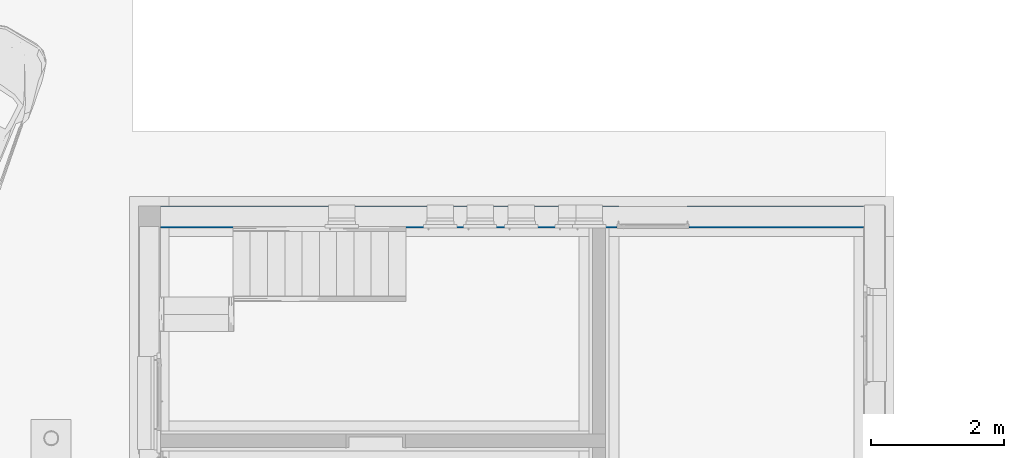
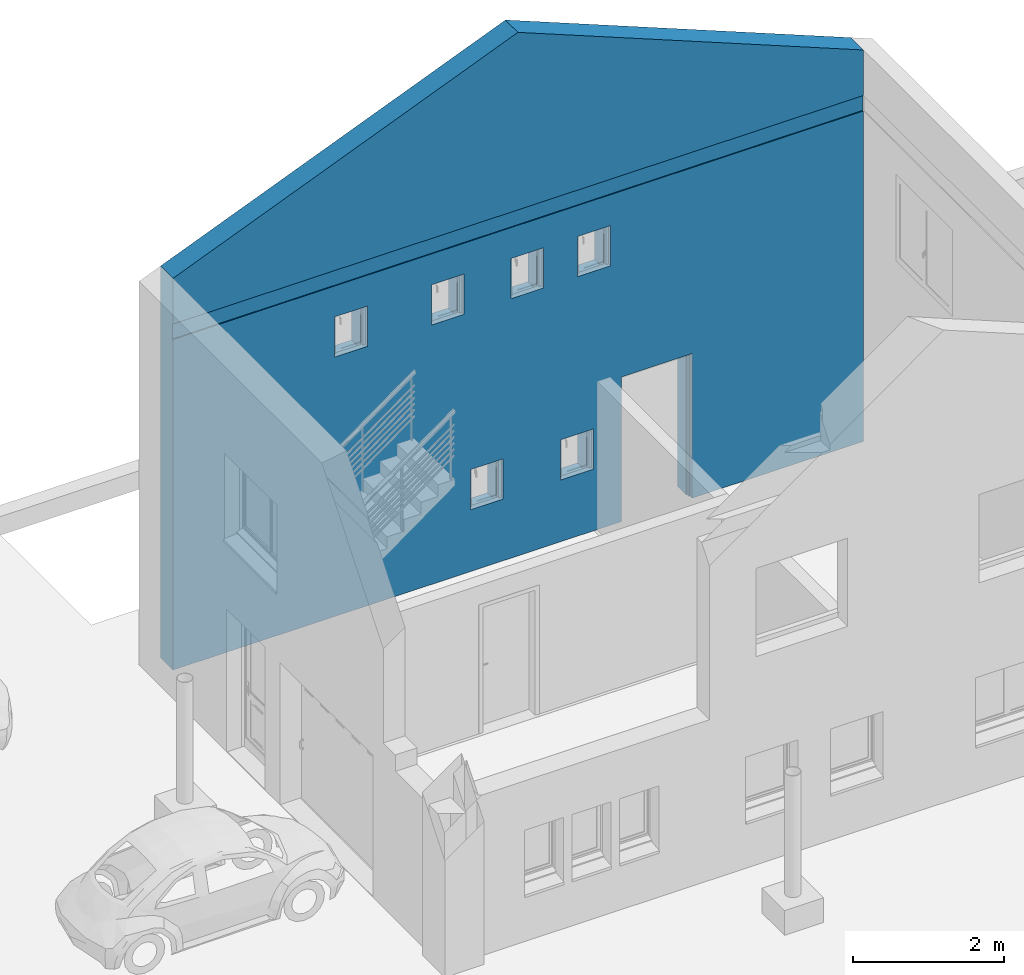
# One storey, part 8 of 20: 1 wall, 7 openings.
"""IFC2X3 building model written with IfcOpenShell, lengths in metres."""

from ifc_helpers import new_model, entity, si_unit, converted_unit, derived_unit, direction, frame, frame_2d, origin, place, context, subcontext, project, spatial, polyline, rectangle, extrude, clip, bounded_halfspace, faceted_brep, material, layer, layer_set, layer_usage, type_object, element, save


model = new_model("IFC2X3")

# Units and contexts
model_context = context("Model", 3, precision=1e-05, world=origin(), true_north=direction((6.12303176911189e-17, 1.0)))
body_context = subcontext(model_context, "Body", "Model", "MODEL_VIEW")
ifc_project = project(units=[si_unit("LENGTHUNIT", "METRE"), si_unit("AREAUNIT", "SQUARE_METRE"), si_unit("VOLUMEUNIT", "CUBIC_METRE"), converted_unit("PLANEANGLEUNIT", "DEGREE", entity("IfcRatioMeasure", 0.0174532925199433), si_unit("PLANEANGLEUNIT", "RADIAN"), dimensions=[0, 0, 0, 0, 0, 0, 0]), si_unit("MASSUNIT", "GRAM", prefix="KILO"), derived_unit("MASSDENSITYUNIT", [(si_unit("MASSUNIT", "GRAM", prefix="KILO"), 1), (si_unit("LENGTHUNIT", "METRE"), -3)]), derived_unit("MOMENTOFINERTIAUNIT", [(si_unit("LENGTHUNIT", "METRE"), 4)]), si_unit("TIMEUNIT", "SECOND"), si_unit("FREQUENCYUNIT", "HERTZ"), si_unit("THERMODYNAMICTEMPERATUREUNIT", "DEGREE_CELSIUS"), derived_unit("THERMALTRANSMITTANCEUNIT", [(si_unit("MASSUNIT", "GRAM", prefix="KILO"), 1), (si_unit("THERMODYNAMICTEMPERATUREUNIT", "KELVIN"), -1), (si_unit("TIMEUNIT", "SECOND"), -3)]), derived_unit("VOLUMETRICFLOWRATEUNIT", [(si_unit("LENGTHUNIT", "METRE"), 3), (si_unit("TIMEUNIT", "SECOND"), -1)]), si_unit("ELECTRICCURRENTUNIT", "AMPERE"), si_unit("ELECTRICVOLTAGEUNIT", "VOLT"), si_unit("POWERUNIT", "WATT"), si_unit("FORCEUNIT", "NEWTON", prefix="KILO"), si_unit("ILLUMINANCEUNIT", "LUX"), si_unit("LUMINOUSFLUXUNIT", "LUMEN"), si_unit("LUMINOUSINTENSITYUNIT", "CANDELA"), derived_unit("USERDEFINED", [(si_unit("MASSUNIT", "GRAM", prefix="KILO"), -1), (si_unit("LENGTHUNIT", "METRE"), -2), (si_unit("TIMEUNIT", "SECOND"), 3), (si_unit("LUMINOUSFLUXUNIT", "LUMEN"), 1)]), derived_unit("LINEARVELOCITYUNIT", [(si_unit("LENGTHUNIT", "METRE"), 1), (si_unit("TIMEUNIT", "SECOND"), -1)]), si_unit("PRESSUREUNIT", "PASCAL"), derived_unit("USERDEFINED", [(si_unit("LENGTHUNIT", "METRE"), -2), (si_unit("MASSUNIT", "GRAM", prefix="KILO"), 1), (si_unit("TIMEUNIT", "SECOND"), -2)]), derived_unit("LINEARFORCEUNIT", [(si_unit("MASSUNIT", "GRAM", prefix="KILO"), 1), (si_unit("LENGTHUNIT", "METRE"), 1), (si_unit("TIMEUNIT", "SECOND"), -2), (si_unit("LENGTHUNIT", "METRE"), -1)]), derived_unit("PLANARFORCEUNIT", [(si_unit("MASSUNIT", "GRAM", prefix="KILO"), 1), (si_unit("LENGTHUNIT", "METRE"), 1), (si_unit("TIMEUNIT", "SECOND"), -2), (si_unit("LENGTHUNIT", "METRE"), -2)])], contexts=[model_context])

# Site, building, storey
site_placement = place(None, origin())
site = spatial("IfcSite", under=ifc_project, at=site_placement, Name="Surface", CompositionType="ELEMENT")
building_placement = place(site_placement, origin())
building = spatial("IfcBuilding", under=site, at=building_placement, CompositionType="ELEMENT")
storey_placement = place(building_placement, origin())
storey = spatial("IfcBuildingStorey", under=building, at=storey_placement, Name="Niveau rdc", CompositionType="ELEMENT", Elevation=-1.94916083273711e-14)

# Wall, openings
ifc_material_1 = material(Name="Maçonnerie - Isolant")
ifc_layer_1 = layer(ifc_material_1, 0.015)
ifc_material_2 = material(Name="Blocs briques monomur")
ifc_layer_2 = layer(ifc_material_2, 0.3)
ifc_layer_3 = layer(ifc_material_1, 0.015)
ifc_layer_set = layer_set([ifc_layer_1, ifc_layer_2, ifc_layer_3], Name="Mur de base:bloc monomur30")
ifc_layer_usage = layer_usage(ifc_layer_set, "AXIS2", "NEGATIVE", 0.165)
wall_type = type_object("IfcWallType", Name="Mur de base:bloc monomur30", PredefinedType="STANDARD", material=ifc_layer_set)
wall_placement = place(storey_placement, frame((1.88439607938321, 7.17425810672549, 0.0)))
wall = element("IfcWallStandardCase", 1, at=wall_placement, inside=storey, type_object=wall_type, material=ifc_layer_usage, Name="Mur de base:bloc monomur30", ObjectType="Mur de base:bloc monomur30", context=body_context, shape_type="Clipping", body=[
    clip(clip(clip(extrude(rectangle(XDim=10.57, YDim=0.330000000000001, at=frame_2d((5.285, -9.71445146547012e-17), x_axis=(-1.0, 0.0))), origin(), (0.0, 0.0, 1.0), 8.47372052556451), bounded_halfspace(frame((10.57, -0.165, 6.33642179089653), z_axis=(0.374606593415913, 0.0, 0.927183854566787), x_axis=(0.0, 1.0, 0.0)), False, frame((10.57, -0.165, 6.33642179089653)), polyline([(0.0, 0.0), (0.0, 0.33), (-5.28999999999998, 0.330000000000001), (-5.28999999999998, 0.0), (-4.80500000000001, 0.0), (-4.735, 0.0), (0.0, 0.0)]))), bounded_halfspace(frame((0.0, 0.165, 6.34046205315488), z_axis=(-0.374606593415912, 0.0, 0.927183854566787), x_axis=(0.0, -1.0, 0.0)), False, frame((0.0, 0.165, 6.34046205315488)), polyline([(0.0, 0.0), (0.0, -0.33), (5.28000000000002, -0.33), (5.28000000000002, 0.0), (0.0, 0.0)]))), bounded_halfspace(frame((0.0, -0.150000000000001, 5.35000000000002), z_axis=(0.0, 1.0, 0.0), x_axis=(0.0, 0.0, 1.0)), True, frame((0.0, -0.150000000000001, 5.35000000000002), z_axis=(0.0, 1.0, 0.0), x_axis=(0.0, 0.0, 1.0)), polyline([(0.0, 0.0), (0.25, 0.0), (0.25, 10.57), (0.0, 10.57), (0.0, 0.0)]))),
])
opening_1_placement = place(wall_placement, frame((6.86500000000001, -0.464999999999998, 0.0)))
element("IfcOpeningElement", 2, at=opening_1_placement, cuts=wall, Name="Mur de base:bloc monomur30", ObjectType="Opening", context=body_context, shape_type="Brep", body=[
    faceted_brep([(1.05, 0.0, 2.30999999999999), (1.05, 0.3, 2.30999999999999), (0.0300000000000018, 0.3, 2.30999999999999), (0.0300000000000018, 0.0, 2.30999999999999), (1.05, 0.930000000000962, 0.0), (1.05, 0.400000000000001, 0.0), (1.065, 0.400000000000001, 0.0), (1.065, 0.357000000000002, 0.0), (1.08, 0.357000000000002, 0.0), (1.08, 0.3, 0.0), (1.05, 0.3, 0.0), (1.05, 0.0, 0.0), (0.0300000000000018, 0.0, 0.0), (0.0300000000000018, 0.3, 0.0), (0.0, 0.3, 0.0), (0.0, 0.357000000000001, 0.0), (0.015000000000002, 0.357000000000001, 0.0), (0.015000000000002, 0.400000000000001, 0.0), (0.0300000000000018, 0.400000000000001, 0.0), (0.0300000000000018, 0.930000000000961, 0.0), (1.05, 0.930000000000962, 2.30999999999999), (1.05, 0.400000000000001, 2.30999999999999), (0.0300000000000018, 0.930000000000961, 2.30999999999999), (1.065, 0.357000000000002, 2.32499999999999), (0.0150000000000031, 0.357000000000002, 2.32499999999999), (0.0, 0.357000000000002, 2.33999999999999), (1.08, 0.357000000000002, 2.33999999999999), (1.08, 0.3, 2.33999999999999), (0.0, 0.3, 2.33999999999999), (0.0150000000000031, 0.400000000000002, 2.32499999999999), (1.065, 0.400000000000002, 2.32499999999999), (0.0300000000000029, 0.400000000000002, 2.30999999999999)], [[[0, 1, 2, 3]], [[4, 5, 6, 7, 8, 9, 10, 11, 12, 13, 14, 15, 16, 17, 18, 19]], [[20, 21, 5, 4]], [[20, 4, 19, 22]], [[3, 2, 13, 12]], [[3, 12, 11, 0]], [[8, 7, 23, 24, 16, 15, 25, 26]], [[13, 2, 1, 10, 9, 27, 28, 14]], [[14, 28, 25, 15]], [[25, 28, 27, 26]], [[26, 27, 9, 8]], [[16, 24, 29, 17]], [[17, 29, 30, 6, 5, 21, 31, 18]], [[24, 23, 30, 29]], [[30, 23, 7, 6]], [[19, 18, 31, 22]], [[11, 10, 1, 0]], [[22, 31, 21, 20]]]),
])
opening_2_placement = place(wall_placement, frame((5.935, -0.5, 0.92)))
element("IfcOpeningElement", 3, at=opening_2_placement, cuts=wall, Name="Mur de base:bloc monomur30", ObjectType="Opening", context=body_context, shape_type="Brep", body=[
    faceted_brep([(0.0500000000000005, 0.414999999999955, 0.0800000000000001), (0.0500000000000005, 0.435000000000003, 0.0800000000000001), (0.0500000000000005, 0.435000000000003, 0.679999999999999), (0.0500000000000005, 1.0, 0.679999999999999), (0.0500000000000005, 1.0, 0.0), (0.0500000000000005, 0.414999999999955, 0.0), (0.45, 0.0, 0.0800000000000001), (0.45, 0.335000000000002, 0.0800000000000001), (0.45, 0.335000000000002, 0.679999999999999), (0.45, 0.0, 0.679999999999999), (0.0499999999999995, 0.0, 0.0800000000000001), (0.0499999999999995, 0.335000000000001, 0.0800000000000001), (0.0, 0.335000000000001, 0.0800000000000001), (0.0, 0.385, 0.0800000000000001), (0.0399999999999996, 0.385, 0.0800000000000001), (0.0399999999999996, 0.435000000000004, 0.0800000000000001), (0.450000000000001, 0.414999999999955, 0.0800000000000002), (0.45, 0.435000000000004, 0.0800000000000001), (0.459999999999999, 0.435000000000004, 0.0800000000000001), (0.459999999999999, 0.385, 0.0800000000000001), (0.499999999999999, 0.385, 0.0800000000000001), (0.499999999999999, 0.335000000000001, 0.0800000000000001), (0.0499999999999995, 0.0, 0.679999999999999), (0.450000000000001, 0.435000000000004, 0.679999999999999), (0.450000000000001, 1.0, 0.679999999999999), (0.450000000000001, 1.0, 0.0), (0.45, 0.414999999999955, 0.0), (0.0, 0.335000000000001, 0.729999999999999), (0.0, 0.385, 0.729999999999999), (0.499999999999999, 0.385, 0.729999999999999), (0.459999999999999, 0.385, 0.69), (0.0399999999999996, 0.385, 0.689999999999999), (0.0399999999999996, 0.435000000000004, 0.689999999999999), (0.459999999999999, 0.435000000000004, 0.69), (0.0499999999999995, 0.335000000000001, 0.679999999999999), (0.499999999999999, 0.335000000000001, 0.729999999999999)], [[[0, 1, 2, 3, 4, 5]], [[6, 7, 8, 9]], [[10, 11, 12, 13, 14, 15, 1, 0, 16, 17, 18, 19, 20, 21, 7, 6]], [[10, 6, 9, 22]], [[3, 2, 23, 24]], [[3, 24, 25, 4]], [[4, 25, 26, 5]], [[5, 26, 16, 0]], [[12, 27, 28, 13]], [[13, 28, 29, 20, 19, 30, 31, 14]], [[14, 31, 32, 15]], [[15, 32, 33, 18, 17, 23, 2, 1]], [[11, 34, 8, 7, 21, 35, 27, 12]], [[27, 35, 29, 28]], [[30, 33, 32, 31]], [[29, 35, 21, 20]], [[19, 18, 33, 30]], [[9, 8, 34, 22]], [[24, 23, 17, 16, 26, 25]], [[22, 34, 11, 10]]]),
])
opening_3_placement = place(wall_placement, frame((4.555, -0.5, 0.92)))
element("IfcOpeningElement", 4, at=opening_3_placement, cuts=wall, Name="Mur de base:bloc monomur30", ObjectType="Opening", context=body_context, shape_type="Brep", body=[
    faceted_brep([(0.0500000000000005, 0.414999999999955, 0.0800000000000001), (0.0500000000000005, 0.435000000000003, 0.0800000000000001), (0.0500000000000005, 0.435000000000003, 0.679999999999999), (0.0500000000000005, 1.0, 0.679999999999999), (0.0500000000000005, 1.0, 0.0), (0.0500000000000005, 0.414999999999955, 0.0), (0.45, 0.0, 0.0800000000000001), (0.45, 0.335000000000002, 0.0800000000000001), (0.45, 0.335000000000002, 0.679999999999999), (0.45, 0.0, 0.679999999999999), (0.0499999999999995, 0.0, 0.0800000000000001), (0.0499999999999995, 0.335000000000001, 0.0800000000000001), (0.0, 0.335000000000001, 0.0800000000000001), (0.0, 0.385, 0.0800000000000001), (0.0399999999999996, 0.385, 0.0800000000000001), (0.0399999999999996, 0.435000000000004, 0.0800000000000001), (0.450000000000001, 0.414999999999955, 0.0800000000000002), (0.45, 0.435000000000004, 0.0800000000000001), (0.459999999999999, 0.435000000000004, 0.0800000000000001), (0.459999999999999, 0.385, 0.0800000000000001), (0.499999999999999, 0.385, 0.0800000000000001), (0.499999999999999, 0.335000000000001, 0.0800000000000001), (0.0499999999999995, 0.0, 0.679999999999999), (0.450000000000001, 0.435000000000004, 0.679999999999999), (0.450000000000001, 1.0, 0.679999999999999), (0.450000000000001, 1.0, 0.0), (0.45, 0.414999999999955, 0.0), (0.0, 0.335000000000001, 0.729999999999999), (0.0, 0.385, 0.729999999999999), (0.499999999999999, 0.385, 0.729999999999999), (0.459999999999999, 0.385, 0.69), (0.0399999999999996, 0.385, 0.689999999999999), (0.0399999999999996, 0.435000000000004, 0.689999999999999), (0.459999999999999, 0.435000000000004, 0.69), (0.0499999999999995, 0.335000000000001, 0.679999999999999), (0.499999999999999, 0.335000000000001, 0.729999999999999)], [[[0, 1, 2, 3, 4, 5]], [[6, 7, 8, 9]], [[10, 11, 12, 13, 14, 15, 1, 0, 16, 17, 18, 19, 20, 21, 7, 6]], [[10, 6, 9, 22]], [[3, 2, 23, 24]], [[3, 24, 25, 4]], [[4, 25, 26, 5]], [[5, 26, 16, 0]], [[12, 27, 28, 13]], [[13, 28, 29, 20, 19, 30, 31, 14]], [[14, 31, 32, 15]], [[15, 32, 33, 18, 17, 23, 2, 1]], [[11, 34, 8, 7, 21, 35, 27, 12]], [[27, 35, 29, 28]], [[30, 33, 32, 31]], [[29, 35, 21, 20]], [[19, 18, 33, 30]], [[9, 8, 34, 22]], [[24, 23, 17, 16, 26, 25]], [[22, 34, 11, 10]]]),
])
opening_4_placement = place(wall_placement, frame((5.175, -0.5, 4.12)))
element("IfcOpeningElement", 5, at=opening_4_placement, cuts=wall, Name="Mur de base:bloc monomur30", ObjectType="Opening", context=body_context, shape_type="Brep", body=[
    faceted_brep([(0.0499999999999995, 0.414999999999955, 0.0800000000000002), (0.0499999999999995, 0.435000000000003, 0.0800000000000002), (0.0499999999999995, 0.435000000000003, 0.679999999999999), (0.0499999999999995, 1.0, 0.679999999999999), (0.0499999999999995, 1.0, 0.0), (0.0499999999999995, 0.414999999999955, 0.0), (0.449999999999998, 0.0, 0.0800000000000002), (0.449999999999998, 0.335000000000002, 0.0800000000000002), (0.449999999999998, 0.335000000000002, 0.679999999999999), (0.449999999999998, 0.0, 0.679999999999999), (0.0499999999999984, 0.0, 0.0800000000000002), (0.0499999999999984, 0.335000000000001, 0.0800000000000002), (0.0, 0.335000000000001, 0.0800000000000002), (0.0, 0.385, 0.0800000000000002), (0.0399999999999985, 0.385, 0.0800000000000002), (0.0399999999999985, 0.435000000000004, 0.0800000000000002), (0.45, 0.414999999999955, 0.0800000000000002), (0.449999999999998, 0.435000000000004, 0.0800000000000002), (0.459999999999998, 0.435000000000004, 0.0800000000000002), (0.459999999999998, 0.385, 0.0800000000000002), (0.499999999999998, 0.385, 0.0800000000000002), (0.499999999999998, 0.335000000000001, 0.0800000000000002), (0.0499999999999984, 0.0, 0.679999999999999), (0.45, 0.435000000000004, 0.679999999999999), (0.45, 1.0, 0.68), (0.45, 1.0, 0.0), (0.449999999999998, 0.414999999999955, 0.0), (0.0, 0.335000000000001, 0.729999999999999), (0.0, 0.385, 0.729999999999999), (0.499999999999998, 0.385, 0.729999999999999), (0.459999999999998, 0.385, 0.69), (0.0399999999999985, 0.385, 0.689999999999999), (0.0399999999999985, 0.435000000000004, 0.689999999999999), (0.459999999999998, 0.435000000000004, 0.69), (0.0499999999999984, 0.335000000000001, 0.68), (0.499999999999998, 0.335000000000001, 0.73)], [[[0, 1, 2, 3, 4, 5]], [[6, 7, 8, 9]], [[10, 11, 12, 13, 14, 15, 1, 0, 16, 17, 18, 19, 20, 21, 7, 6]], [[10, 6, 9, 22]], [[3, 2, 23, 24]], [[3, 24, 25, 4]], [[4, 25, 26, 5]], [[5, 26, 16, 0]], [[12, 27, 28, 13]], [[13, 28, 29, 20, 19, 30, 31, 14]], [[14, 31, 32, 15]], [[15, 32, 33, 18, 17, 23, 2, 1]], [[11, 34, 8, 7, 21, 35, 27, 12]], [[27, 35, 29, 28]], [[30, 33, 32, 31]], [[29, 35, 21, 20]], [[19, 18, 33, 30]], [[9, 8, 34, 22]], [[24, 23, 17, 16, 26, 25]], [[22, 34, 11, 10]]]),
])
opening_5_placement = place(wall_placement, frame((6.195, -0.5, 4.12)))
element("IfcOpeningElement", 6, at=opening_5_placement, cuts=wall, Name="Mur de base:bloc monomur30", ObjectType="Opening", context=body_context, shape_type="Brep", body=[
    faceted_brep([(0.0499999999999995, 0.414999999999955, 0.0800000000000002), (0.0499999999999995, 0.435000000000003, 0.0800000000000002), (0.0499999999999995, 0.435000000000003, 0.679999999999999), (0.0499999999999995, 1.0, 0.679999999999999), (0.0499999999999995, 1.0, 0.0), (0.0499999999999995, 0.414999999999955, 0.0), (0.449999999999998, 0.0, 0.0800000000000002), (0.449999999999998, 0.335000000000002, 0.0800000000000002), (0.449999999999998, 0.335000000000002, 0.679999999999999), (0.449999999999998, 0.0, 0.679999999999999), (0.0499999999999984, 0.0, 0.0800000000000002), (0.0499999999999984, 0.335000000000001, 0.0800000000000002), (0.0, 0.335000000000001, 0.0800000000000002), (0.0, 0.385, 0.0800000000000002), (0.0399999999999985, 0.385, 0.0800000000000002), (0.0399999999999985, 0.435000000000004, 0.0800000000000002), (0.45, 0.414999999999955, 0.0800000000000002), (0.449999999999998, 0.435000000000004, 0.0800000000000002), (0.459999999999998, 0.435000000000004, 0.0800000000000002), (0.459999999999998, 0.385, 0.0800000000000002), (0.499999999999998, 0.385, 0.0800000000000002), (0.499999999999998, 0.335000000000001, 0.0800000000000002), (0.0499999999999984, 0.0, 0.679999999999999), (0.45, 0.435000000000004, 0.679999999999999), (0.45, 1.0, 0.68), (0.45, 1.0, 0.0), (0.449999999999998, 0.414999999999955, 0.0), (0.0, 0.335000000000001, 0.729999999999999), (0.0, 0.385, 0.729999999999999), (0.499999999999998, 0.385, 0.729999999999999), (0.459999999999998, 0.385, 0.69), (0.0399999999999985, 0.385, 0.689999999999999), (0.0399999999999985, 0.435000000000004, 0.689999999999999), (0.459999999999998, 0.435000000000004, 0.69), (0.0499999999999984, 0.335000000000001, 0.68), (0.499999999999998, 0.335000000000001, 0.73)], [[[0, 1, 2, 3, 4, 5]], [[6, 7, 8, 9]], [[10, 11, 12, 13, 14, 15, 1, 0, 16, 17, 18, 19, 20, 21, 7, 6]], [[10, 6, 9, 22]], [[3, 2, 23, 24]], [[3, 24, 25, 4]], [[4, 25, 26, 5]], [[5, 26, 16, 0]], [[12, 27, 28, 13]], [[13, 28, 29, 20, 19, 30, 31, 14]], [[14, 31, 32, 15]], [[15, 32, 33, 18, 17, 23, 2, 1]], [[11, 34, 8, 7, 21, 35, 27, 12]], [[27, 35, 29, 28]], [[30, 33, 32, 31]], [[29, 35, 21, 20]], [[19, 18, 33, 30]], [[9, 8, 34, 22]], [[24, 23, 17, 16, 26, 25]], [[22, 34, 11, 10]]]),
])
opening_6_placement = place(wall_placement, frame((2.475, -0.5, 4.12)))
element("IfcOpeningElement", 7, at=opening_6_placement, cuts=wall, Name="Mur de base:bloc monomur30", ObjectType="Opening", context=body_context, shape_type="Brep", body=[
    faceted_brep([(0.0499999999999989, 0.414999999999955, 0.0800000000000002), (0.0499999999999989, 0.435000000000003, 0.0800000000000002), (0.0499999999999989, 0.435000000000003, 0.679999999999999), (0.05, 1.0, 0.679999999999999), (0.05, 1.0, 0.0), (0.0499999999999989, 0.414999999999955, 0.0), (0.449999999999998, 0.0, 0.0800000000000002), (0.449999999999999, 0.335000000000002, 0.0800000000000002), (0.449999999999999, 0.335000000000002, 0.679999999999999), (0.449999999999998, 0.0, 0.679999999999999), (0.0499999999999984, 0.0, 0.0800000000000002), (0.05, 0.335000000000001, 0.0800000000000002), (0.0, 0.335000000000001, 0.0800000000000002), (0.0, 0.385, 0.0800000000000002), (0.0399999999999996, 0.385, 0.0800000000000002), (0.0399999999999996, 0.435000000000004, 0.0800000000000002), (0.449999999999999, 0.414999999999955, 0.0800000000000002), (0.45, 0.435000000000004, 0.0800000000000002), (0.46, 0.435000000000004, 0.0800000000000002), (0.46, 0.385, 0.0800000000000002), (0.5, 0.385, 0.0800000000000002), (0.499999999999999, 0.335000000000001, 0.0800000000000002), (0.0499999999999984, 0.0, 0.679999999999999), (0.449999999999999, 0.435000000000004, 0.679999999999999), (0.45, 1.0, 0.68), (0.45, 1.0, 0.0), (0.45, 0.414999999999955, 0.0), (0.0, 0.335000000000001, 0.729999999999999), (0.0, 0.385, 0.729999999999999), (0.5, 0.385, 0.729999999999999), (0.46, 0.385, 0.69), (0.0399999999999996, 0.385, 0.689999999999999), (0.0399999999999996, 0.435000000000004, 0.689999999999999), (0.459999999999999, 0.435000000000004, 0.69), (0.0499999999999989, 0.335000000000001, 0.68), (0.499999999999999, 0.335000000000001, 0.73)], [[[0, 1, 2, 3, 4, 5]], [[6, 7, 8, 9]], [[10, 11, 12, 13, 14, 15, 1, 0, 16, 17, 18, 19, 20, 21, 7, 6]], [[10, 6, 9, 22]], [[3, 2, 23, 24]], [[3, 24, 25, 4]], [[4, 25, 26, 5]], [[5, 26, 16, 0]], [[12, 27, 28, 13]], [[13, 28, 29, 20, 19, 30, 31, 14]], [[14, 31, 32, 15]], [[15, 32, 33, 18, 17, 23, 2, 1]], [[11, 34, 8, 7, 21, 35, 27, 12]], [[27, 35, 29, 28]], [[30, 33, 32, 31]], [[29, 35, 21, 20]], [[19, 18, 33, 30]], [[9, 8, 34, 22]], [[24, 23, 17, 16, 26, 25]], [[22, 34, 11, 10]]]),
])
opening_7_placement = place(wall_placement, frame((3.955, -0.5, 4.12)))
element("IfcOpeningElement", 8, at=opening_7_placement, cuts=wall, Name="Mur de base:bloc monomur30", ObjectType="Opening", context=body_context, shape_type="Brep", body=[
    faceted_brep([(0.0500000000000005, 0.414999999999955, 0.0800000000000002), (0.0500000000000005, 0.435000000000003, 0.0800000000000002), (0.0500000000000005, 0.435000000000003, 0.679999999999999), (0.0500000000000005, 1.0, 0.679999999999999), (0.0500000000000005, 1.0, 0.0), (0.0500000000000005, 0.414999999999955, 0.0), (0.45, 0.0, 0.0800000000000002), (0.45, 0.335000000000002, 0.0800000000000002), (0.45, 0.335000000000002, 0.679999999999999), (0.45, 0.0, 0.679999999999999), (0.0499999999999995, 0.0, 0.0800000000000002), (0.0499999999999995, 0.335000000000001, 0.0800000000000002), (0.0, 0.335000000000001, 0.0800000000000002), (0.0, 0.385, 0.0800000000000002), (0.0399999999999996, 0.385, 0.0800000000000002), (0.0399999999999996, 0.435000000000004, 0.0800000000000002), (0.450000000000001, 0.414999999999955, 0.0800000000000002), (0.45, 0.435000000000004, 0.0800000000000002), (0.459999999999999, 0.435000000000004, 0.0800000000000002), (0.459999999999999, 0.385, 0.0800000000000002), (0.499999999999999, 0.385, 0.0800000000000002), (0.499999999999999, 0.335000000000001, 0.0800000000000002), (0.0499999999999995, 0.0, 0.679999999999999), (0.450000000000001, 0.435000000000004, 0.679999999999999), (0.450000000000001, 1.0, 0.68), (0.450000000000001, 1.0, 0.0), (0.45, 0.414999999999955, 0.0), (0.0, 0.335000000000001, 0.729999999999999), (0.0, 0.385, 0.729999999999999), (0.499999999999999, 0.385, 0.729999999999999), (0.459999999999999, 0.385, 0.69), (0.0399999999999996, 0.385, 0.689999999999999), (0.0399999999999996, 0.435000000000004, 0.689999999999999), (0.459999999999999, 0.435000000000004, 0.69), (0.0499999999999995, 0.335000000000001, 0.68), (0.499999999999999, 0.335000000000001, 0.73)], [[[0, 1, 2, 3, 4, 5]], [[6, 7, 8, 9]], [[10, 11, 12, 13, 14, 15, 1, 0, 16, 17, 18, 19, 20, 21, 7, 6]], [[10, 6, 9, 22]], [[3, 2, 23, 24]], [[3, 24, 25, 4]], [[4, 25, 26, 5]], [[5, 26, 16, 0]], [[12, 27, 28, 13]], [[13, 28, 29, 20, 19, 30, 31, 14]], [[14, 31, 32, 15]], [[15, 32, 33, 18, 17, 23, 2, 1]], [[11, 34, 8, 7, 21, 35, 27, 12]], [[27, 35, 29, 28]], [[30, 33, 32, 31]], [[29, 35, 21, 20]], [[19, 18, 33, 30]], [[9, 8, 34, 22]], [[24, 23, 17, 16, 26, 25]], [[22, 34, 11, 10]]]),
])

save(model, "model.ifc")
